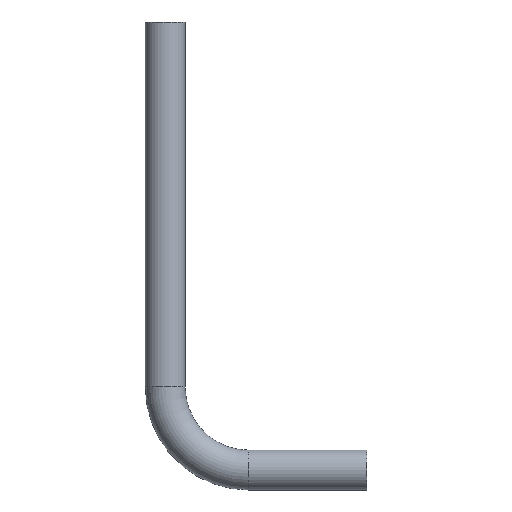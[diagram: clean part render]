
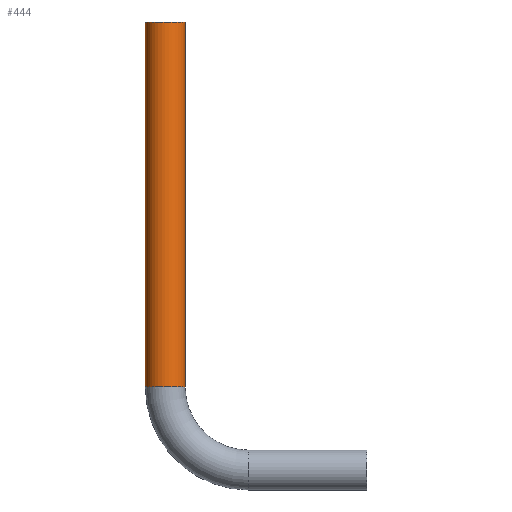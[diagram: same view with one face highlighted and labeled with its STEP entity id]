
A CAD part, top view. The second image highlights one B-rep face of the part: STEP entity #444.
In plain terms, the highlighted cylindrical face has radius 31.5 mm (diameter 63 mm), a partial arc.
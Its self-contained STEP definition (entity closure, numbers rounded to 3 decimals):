
#61 = DIRECTION ( 'NONE',  ( 0., 1., 0. ) ) ;
#64 = FACE_OUTER_BOUND ( 'NONE', #286, .T. ) ;
#65 = CARTESIAN_POINT ( 'NONE',  ( -318.5, 131.5, 0. ) ) ;
#66 = CYLINDRICAL_SURFACE ( 'NONE', #386, 31.5 ) ;
#67 = DIRECTION ( 'NONE',  ( -1., 0., 0. ) ) ;
#148 = CIRCLE ( 'NONE', #169, 31.5 ) ;
#152 = VECTOR ( 'NONE', #216, 1000. ) ;
#153 = AXIS2_PLACEMENT_3D ( 'NONE', #207, #206, #204 ) ;
#158 = VECTOR ( 'NONE', #203, 1000. ) ;
#162 = CIRCLE ( 'NONE', #153, 31.5 ) ;
#169 = AXIS2_PLACEMENT_3D ( 'NONE', #219, #181, #218 ) ;
#181 = DIRECTION ( 'NONE',  ( 0., -1., 0. ) ) ;
#203 = DIRECTION ( 'NONE',  ( 0., 1., 0. ) ) ;
#204 = DIRECTION ( 'NONE',  ( 0., 0., -1. ) ) ;
#206 = DIRECTION ( 'NONE',  ( 0., -1., 0. ) ) ;
#207 = CARTESIAN_POINT ( 'NONE',  ( -318.5, 708.5, 0. ) ) ;
#214 = CARTESIAN_POINT ( 'NONE',  ( -350., 131.5, 0. ) ) ;
#215 = LINE ( 'NONE', #214, #158 ) ;
#216 = DIRECTION ( 'NONE',  ( 0., 1., 0. ) ) ;
#217 = CARTESIAN_POINT ( 'NONE',  ( -287., 131.5, 0. ) ) ;
#218 = DIRECTION ( 'NONE',  ( 0., 0., -1. ) ) ;
#219 = CARTESIAN_POINT ( 'NONE',  ( -318.5, 131.5, 0. ) ) ;
#220 = LINE ( 'NONE', #217, #152 ) ;
#262 = CARTESIAN_POINT ( 'NONE',  ( -350., 131.5, 0. ) ) ;
#263 = CARTESIAN_POINT ( 'NONE',  ( -287., 131.5, 0. ) ) ;
#268 = CARTESIAN_POINT ( 'NONE',  ( -287., 708.5, 0. ) ) ;
#271 = CARTESIAN_POINT ( 'NONE',  ( -350., 708.5, 0. ) ) ;
#272 = VERTEX_POINT ( 'NONE', #271 ) ;
#273 = VERTEX_POINT ( 'NONE', #268 ) ;
#279 = VERTEX_POINT ( 'NONE', #263 ) ;
#280 = VERTEX_POINT ( 'NONE', #262 ) ;
#286 = EDGE_LOOP ( 'NONE', ( #315, #316, #317, #318 ) ) ;
#315 = ORIENTED_EDGE ( 'NONE', *, *, #403, .F. ) ;
#316 = ORIENTED_EDGE ( 'NONE', *, *, #411, .T. ) ;
#317 = ORIENTED_EDGE ( 'NONE', *, *, #414, .T. ) ;
#318 = ORIENTED_EDGE ( 'NONE', *, *, #416, .F. ) ;
#386 = AXIS2_PLACEMENT_3D ( 'NONE', #65, #61, #67 ) ;
#403 = EDGE_CURVE ( 'NONE', #279, #280, #148, .T. ) ;
#411 = EDGE_CURVE ( 'NONE', #279, #273, #220, .T. ) ;
#414 = EDGE_CURVE ( 'NONE', #273, #272, #162, .T. ) ;
#416 = EDGE_CURVE ( 'NONE', #280, #272, #215, .T. ) ;
#444 = ADVANCED_FACE ( 'NONE', ( #64 ), #66, .T. ) ;
